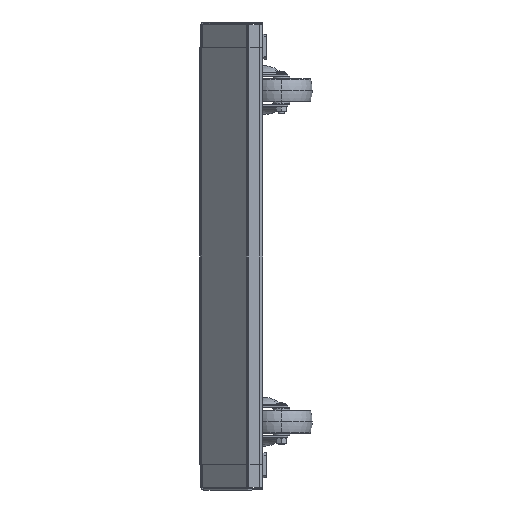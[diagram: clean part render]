
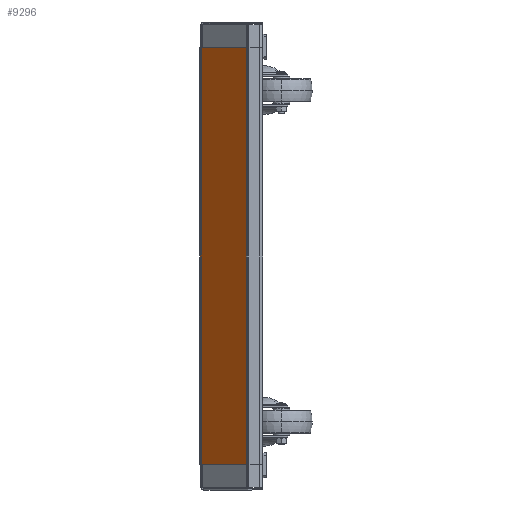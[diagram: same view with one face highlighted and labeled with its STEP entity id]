
A CAD part, left-side view. The second image highlights one B-rep face of the part: STEP entity #9296.
In plain terms, the highlighted planar face has unit normal (-0.707, 0.707, 0).
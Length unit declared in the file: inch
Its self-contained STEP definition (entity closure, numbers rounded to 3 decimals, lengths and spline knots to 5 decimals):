
#130 = VERTEX_POINT ( 'NONE', #6029 ) ;
#198 = PLANE ( 'NONE',  #3957 ) ;
#322 = LINE ( 'NONE', #1221, #12356 ) ;
#605 = VECTOR ( 'NONE', #9636, 39.37008 ) ;
#1221 = CARTESIAN_POINT ( 'NONE',  ( -7.21328, 0.02828, 10.5 ) ) ;
#1261 = CARTESIAN_POINT ( 'NONE',  ( -9.55185, -2.31028, 10.5 ) ) ;
#1342 = CARTESIAN_POINT ( 'NONE',  ( -7.21328, 0.02828, 10.5 ) ) ;
#1488 = EDGE_CURVE ( 'NONE', #10830, #130, #12598, .T. ) ;
#2164 = EDGE_LOOP ( 'NONE', ( #13258, #14090, #2472, #6464 ) ) ;
#2294 = CARTESIAN_POINT ( 'NONE',  ( -7.23672, 0.00485, 10.5 ) ) ;
#2472 = ORIENTED_EDGE ( 'NONE', *, *, #7880, .F. ) ;
#3297 = VECTOR ( 'NONE', #4849, 39.37008 ) ;
#3413 = VERTEX_POINT ( 'NONE', #12323 ) ;
#3636 = EDGE_CURVE ( 'NONE', #3413, #6365, #12390, .T. ) ;
#3957 = AXIS2_PLACEMENT_3D ( 'NONE', #1342, #11855, #4908 ) ;
#4028 = CARTESIAN_POINT ( 'NONE',  ( -7.23672, 0.00485, -10.5 ) ) ;
#4085 = LINE ( 'NONE', #14246, #605 ) ;
#4849 = DIRECTION ( 'NONE',  ( 0., 0., -1. ) ) ;
#4908 = DIRECTION ( 'NONE',  ( 0.707, 0.707, 0. ) ) ;
#5954 = CARTESIAN_POINT ( 'NONE',  ( -9.55185, -2.31028, 10.5 ) ) ;
#6029 = CARTESIAN_POINT ( 'NONE',  ( -9.55185, -2.31028, -10.5 ) ) ;
#6365 = VERTEX_POINT ( 'NONE', #4028 ) ;
#6464 = ORIENTED_EDGE ( 'NONE', *, *, #3636, .T. ) ;
#7880 = EDGE_CURVE ( 'NONE', #3413, #10830, #322, .T. ) ;
#8214 = DIRECTION ( 'NONE',  ( -0.707, -0.707, 0. ) ) ;
#9296 = ADVANCED_FACE ( 'NONE', ( #9595 ), #198, .F. ) ;
#9595 = FACE_OUTER_BOUND ( 'NONE', #2164, .T. ) ;
#9636 = DIRECTION ( 'NONE',  ( -0.707, -0.707, 0. ) ) ;
#10442 = DIRECTION ( 'NONE',  ( 0., 0., -1. ) ) ;
#10830 = VERTEX_POINT ( 'NONE', #5954 ) ;
#11855 = DIRECTION ( 'NONE',  ( 0.707, -0.707, 0. ) ) ;
#12323 = CARTESIAN_POINT ( 'NONE',  ( -7.23672, 0.00485, 10.5 ) ) ;
#12356 = VECTOR ( 'NONE', #8214, 39.37008 ) ;
#12390 = LINE ( 'NONE', #2294, #12759 ) ;
#12598 = LINE ( 'NONE', #1261, #3297 ) ;
#12759 = VECTOR ( 'NONE', #10442, 39.37008 ) ;
#13183 = EDGE_CURVE ( 'NONE', #6365, #130, #4085, .T. ) ;
#13258 = ORIENTED_EDGE ( 'NONE', *, *, #13183, .T. ) ;
#14090 = ORIENTED_EDGE ( 'NONE', *, *, #1488, .F. ) ;
#14246 = CARTESIAN_POINT ( 'NONE',  ( -7.21328, 0.02828, -10.5 ) ) ;
